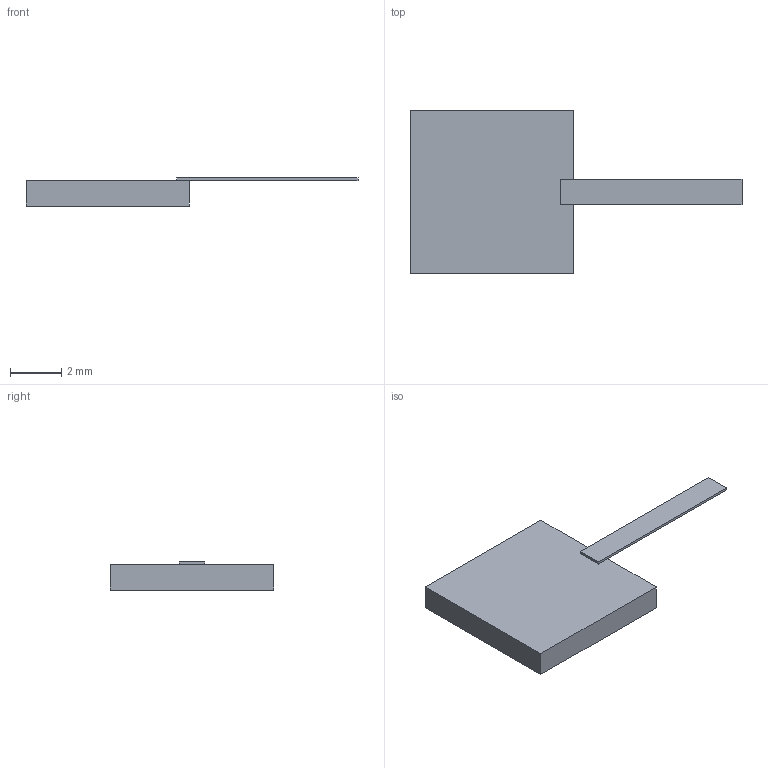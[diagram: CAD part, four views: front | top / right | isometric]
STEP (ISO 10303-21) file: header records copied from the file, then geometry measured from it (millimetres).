
FILE_DESCRIPTION(('STEP AP203'), '1');
FILE_NAME('P1-170-60-16', '', ('UNSPECIFIED'), ('UNSPECIFIED'), 'ASCON STEP Converter 1.6', 'ASCON Math Kernel', '');
FILE_SCHEMA(('CONFIG_CONTROL_DESIGN'));
Length unit declared in the file: millimetre
Bounding box: 13 x 6.4 x 1.1 mm (x, y, z)
Volume: 41.7 mm3; surface area: 122.3 mm2
Topology: 1 solids, 1 shells, 12 faces, 28 edges, 18 vertices
Faces by surface type: plane 12
Entity records: 476 total; most frequent: CARTESIAN_POINT 59, ORIENTED_EDGE 56, DIRECTION 54, EDGE_CURVE 28, LINE 28, VECTOR 28, VERTEX_POINT 18, AXIS2_PLACEMENT_3D 13
